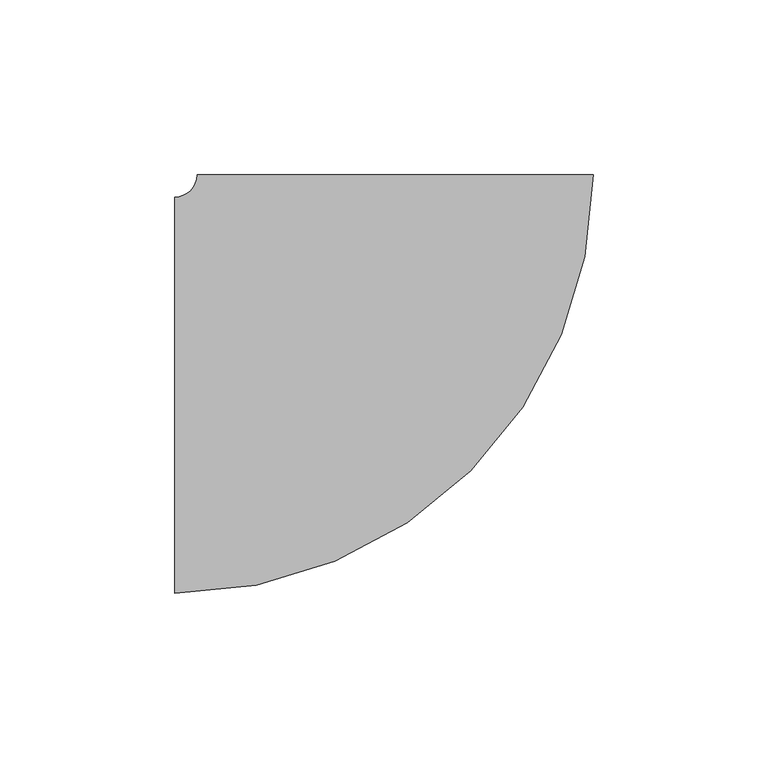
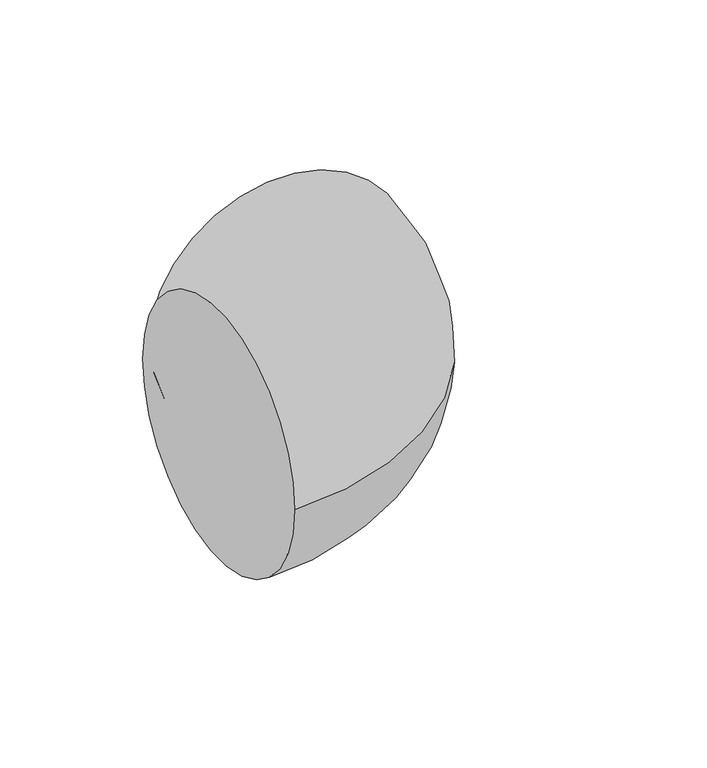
"""IFC4 building model written with IfcOpenShell, lengths in millimetres: pipe fitting geometry, M_Codo - Genérico : Estándar."""

from ifc_helpers import new_model, si_unit, point, frame, origin, place, context, project, spatial, circle_curve, ellipse_curve, trimmed, source, transform, mapped, element, save
from ifc_brep_helpers import plane_surface, revolved_surface, advanced_brep


def pipe_fitting_fa3f9604(model_context):
    return source(origin(), model_context, "Body", "AdvancedBrep", [
        advanced_brep(
        [(-62.9375, -56.5875, 0.0), (-62.9375, 56.5875, 0.0), (56.5875, 62.9375, 0.0), (-56.5875, 62.9375, 0.0)],
        [
            (0, 1, circle_curve(frame((-62.9375, 0.0, 0.0), z_axis=(-1.0, 0.0, 0.0), x_axis=(0.0, 1.0, 0.0)), 56.5875)),
            (1, 0, circle_curve(frame((-62.9375, 0.0, 0.0), z_axis=(-1.0, 0.0, 0.0), x_axis=(0.0, 1.0, 0.0)), 56.5875)),
            (2, 3, circle_curve(frame((0.0, 62.9375, 0.0), z_axis=(0.0, 1.0, 0.0), x_axis=(-1.0, 0.0, 0.0)), 56.5875)),
            (3, 2, circle_curve(frame((0.0, 62.9375, 0.0), z_axis=(0.0, 1.0, 0.0), x_axis=(-1.0, 0.0, 0.0)), 56.5875)),
            (3, 1, circle_curve(frame((-62.9375, 62.9375, 0.0), z_axis=(0.0, 0.0, -1.0), x_axis=(0.0, -1.0, 0.0)), 6.35)),
            (0, 2, circle_curve(frame((-62.9375, 62.9375, 0.0), z_axis=(0.0, 0.0, 1.0), x_axis=(0.0, -1.0, 0.0)), 119.525)),
        ],
        [
            plane_surface(frame((-62.9375, 0.0, 0.0), z_axis=(-1.0, 0.0, 0.0), x_axis=(0.0, 0.0, 1.0))),
            plane_surface(frame((0.0, 62.9375, 0.0), z_axis=(0.0, 1.0, 0.0), x_axis=(0.0, 0.0, 1.0))),
            revolved_surface(trimmed(ellipse_curve(frame((-62.9375, 0.0, 0.0), z_axis=(-1.0, 0.0, 0.0), x_axis=(0.0, 1.0, 0.0)), 56.5875, 56.5875), [point((-62.9375, -56.5875, 0.0))], [point((-62.9375, 56.5875, 0.0))], True, "CARTESIAN"), (-62.9375, 62.9375, 0.0), (0.0, 0.0, 1.0)),
            revolved_surface(trimmed(ellipse_curve(frame((-62.9375, 0.0, 0.0), z_axis=(-1.0, 0.0, 0.0), x_axis=(0.0, 1.0, 0.0)), 56.5875, 56.5875), [point((-62.9375, 56.5875, 0.0))], [point((-62.9375, -56.5875, 0.0))], True, "CARTESIAN"), (-62.9375, 62.9375, 0.0), (0.0, 0.0, 1.0)),
        ],
        [
            (0, [[1, 2]]),
            (1, [[3, 4]]),
            (2, [[5, -1, 6, -4]]),
            (3, [[-6, -2, -5, -3]]),
        ],
    ),
    ])


if __name__ == "__main__":
    model = new_model("IFC4")
    model_context = context("Model", 3, world=origin())
    ifc_project = project(units=[si_unit("LENGTHUNIT", "METRE", prefix="MILLI")], contexts=[model_context])
    site = spatial("IfcSite", under=ifc_project)
    building = spatial("IfcBuilding", under=site)
    placement = place(None, origin())
    pipe_fitting_shape = pipe_fitting_fa3f9604(model_context)
    element("IfcPipeFitting", 1, ObjectType="M_Codo - Genérico : Estándar", at=placement, inside=building, context=model_context, shape_type="MappedRepresentation", body=[
        mapped(pipe_fitting_shape, transform((0.0, 0.0, 0.0), x_axis=(1.0, 0.0, 0.0), y_axis=(0.0, 1.0, 0.0), z_axis=(0.0, 0.0, 1.0))),
    ])
    save(model, "model.ifc")
